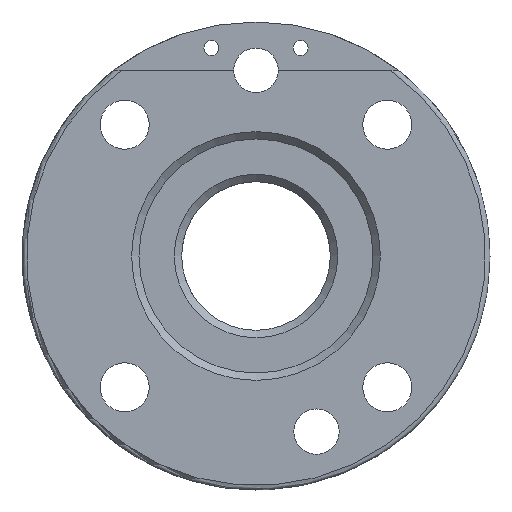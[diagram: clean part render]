
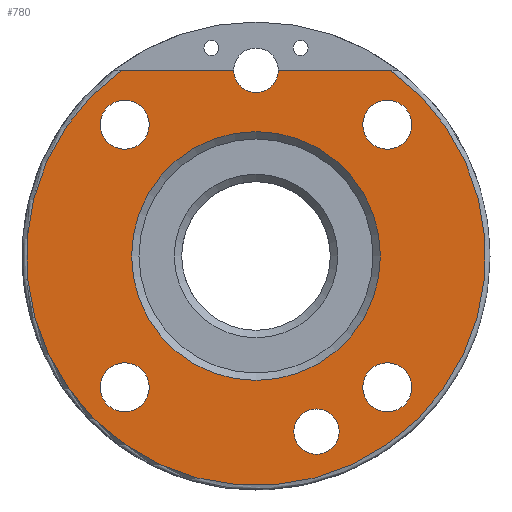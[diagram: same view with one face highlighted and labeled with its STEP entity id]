
A CAD part, front view. The second image highlights one B-rep face of the part: STEP entity #780.
In plain terms, the highlighted planar face has unit normal (0, -1, 0).
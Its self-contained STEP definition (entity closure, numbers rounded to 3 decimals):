
#37=FACE_BOUND('',#242,.T.);
#38=FACE_BOUND('',#243,.T.);
#39=FACE_BOUND('',#244,.T.);
#40=FACE_BOUND('',#245,.T.);
#41=FACE_BOUND('',#246,.T.);
#42=FACE_BOUND('',#247,.T.);
#65=LINE('',#1171,#107);
#80=LINE('',#1266,#122);
#107=VECTOR('',#927,10.);
#122=VECTOR('',#1042,10.);
#154=PLANE('',#878);
#184=FACE_OUTER_BOUND('',#241,.T.);
#241=EDGE_LOOP('',(#598,#599,#600,#601));
#242=EDGE_LOOP('',(#602));
#243=EDGE_LOOP('',(#603));
#244=EDGE_LOOP('',(#604));
#245=EDGE_LOOP('',(#605));
#246=EDGE_LOOP('',(#606));
#247=EDGE_LOOP('',(#607));
#270=CIRCLE('',#826,30.9);
#285=CIRCLE('',#846,3.05);
#288=CIRCLE('',#852,3.3);
#291=CIRCLE('',#858,3.3);
#294=CIRCLE('',#864,3.3);
#297=CIRCLE('',#870,3.3);
#301=CIRCLE('',#879,3.);
#302=CIRCLE('',#880,16.75);
#327=VERTEX_POINT('',#1136);
#331=VERTEX_POINT('',#1152);
#334=VERTEX_POINT('',#1169);
#348=VERTEX_POINT('',#1205);
#351=VERTEX_POINT('',#1216);
#354=VERTEX_POINT('',#1227);
#357=VERTEX_POINT('',#1238);
#360=VERTEX_POINT('',#1249);
#364=VERTEX_POINT('',#1265);
#365=VERTEX_POINT('',#1270);
#400=EDGE_CURVE('',#331,#327,#270,.T.);
#404=EDGE_CURVE('',#331,#334,#65,.T.);
#422=EDGE_CURVE('',#348,#348,#285,.T.);
#427=EDGE_CURVE('',#351,#351,#288,.T.);
#432=EDGE_CURVE('',#354,#354,#291,.T.);
#437=EDGE_CURVE('',#357,#357,#294,.T.);
#442=EDGE_CURVE('',#360,#360,#297,.T.);
#449=EDGE_CURVE('',#364,#327,#80,.T.);
#451=EDGE_CURVE('',#334,#364,#301,.T.);
#452=EDGE_CURVE('',#365,#365,#302,.T.);
#598=ORIENTED_EDGE('',*,*,#400,.F.);
#599=ORIENTED_EDGE('',*,*,#404,.T.);
#600=ORIENTED_EDGE('',*,*,#451,.T.);
#601=ORIENTED_EDGE('',*,*,#449,.T.);
#602=ORIENTED_EDGE('',*,*,#422,.T.);
#603=ORIENTED_EDGE('',*,*,#427,.T.);
#604=ORIENTED_EDGE('',*,*,#432,.T.);
#605=ORIENTED_EDGE('',*,*,#437,.T.);
#606=ORIENTED_EDGE('',*,*,#442,.T.);
#607=ORIENTED_EDGE('',*,*,#452,.F.);
#780=ADVANCED_FACE('',(#184,#37,#38,#39,#40,#41,#42),#154,.T.);
#826=AXIS2_PLACEMENT_3D('',#1163,#920,#921);
#846=AXIS2_PLACEMENT_3D('',#1207,#967,#968);
#852=AXIS2_PLACEMENT_3D('',#1218,#981,#982);
#858=AXIS2_PLACEMENT_3D('',#1229,#995,#996);
#864=AXIS2_PLACEMENT_3D('',#1240,#1009,#1010);
#870=AXIS2_PLACEMENT_3D('',#1251,#1023,#1024);
#878=AXIS2_PLACEMENT_3D('',#1268,#1044,#1045);
#879=AXIS2_PLACEMENT_3D('',#1269,#1046,#1047);
#880=AXIS2_PLACEMENT_3D('',#1271,#1048,#1049);
#920=DIRECTION('center_axis',(0.,1.,0.));
#921=DIRECTION('ref_axis',(0.,0.,-1.));
#927=DIRECTION('',(-1.,0.,0.));
#967=DIRECTION('center_axis',(0.,1.,0.));
#968=DIRECTION('ref_axis',(1.,0.,0.));
#981=DIRECTION('center_axis',(0.,1.,0.));
#982=DIRECTION('ref_axis',(1.,0.,0.));
#995=DIRECTION('center_axis',(0.,1.,0.));
#996=DIRECTION('ref_axis',(1.,0.,0.));
#1009=DIRECTION('center_axis',(0.,1.,0.));
#1010=DIRECTION('ref_axis',(1.,0.,0.));
#1023=DIRECTION('center_axis',(0.,1.,0.));
#1024=DIRECTION('ref_axis',(1.,0.,0.));
#1042=DIRECTION('',(-1.,0.,0.));
#1044=DIRECTION('center_axis',(0.,-1.,0.));
#1045=DIRECTION('ref_axis',(0.,0.,-1.));
#1046=DIRECTION('center_axis',(0.,1.,0.));
#1047=DIRECTION('ref_axis',(1.,0.,0.));
#1048=DIRECTION('center_axis',(0.,-1.,0.));
#1049=DIRECTION('ref_axis',(-1.,0.,0.));
#1136=CARTESIAN_POINT('',(-18.161,0.,25.));
#1152=CARTESIAN_POINT('',(18.161,0.,25.));
#1163=CARTESIAN_POINT('Origin',(0.,0.,0.));
#1169=CARTESIAN_POINT('',(3.,0.,25.));
#1171=CARTESIAN_POINT('',(-19.957,0.,25.));
#1205=CARTESIAN_POINT('',(5.089,0.,-23.638));
#1207=CARTESIAN_POINT('Origin',(8.139,0.,-23.638));
#1216=CARTESIAN_POINT('',(14.378,0.,-17.678));
#1218=CARTESIAN_POINT('Origin',(17.678,0.,-17.678));
#1227=CARTESIAN_POINT('',(-20.978,0.,17.678));
#1229=CARTESIAN_POINT('Origin',(-17.678,0.,17.678));
#1238=CARTESIAN_POINT('',(14.378,0.,17.678));
#1240=CARTESIAN_POINT('Origin',(17.678,0.,17.678));
#1249=CARTESIAN_POINT('',(-20.978,0.,-17.678));
#1251=CARTESIAN_POINT('Origin',(-17.678,0.,-17.678));
#1265=CARTESIAN_POINT('',(-3.,0.,25.));
#1266=CARTESIAN_POINT('',(-19.957,0.,25.));
#1268=CARTESIAN_POINT('Origin',(-20.75,0.,0.));
#1269=CARTESIAN_POINT('Origin',(0.,0.,25.));
#1270=CARTESIAN_POINT('',(16.75,0.,0.));
#1271=CARTESIAN_POINT('Origin',(0.,0.,0.));
